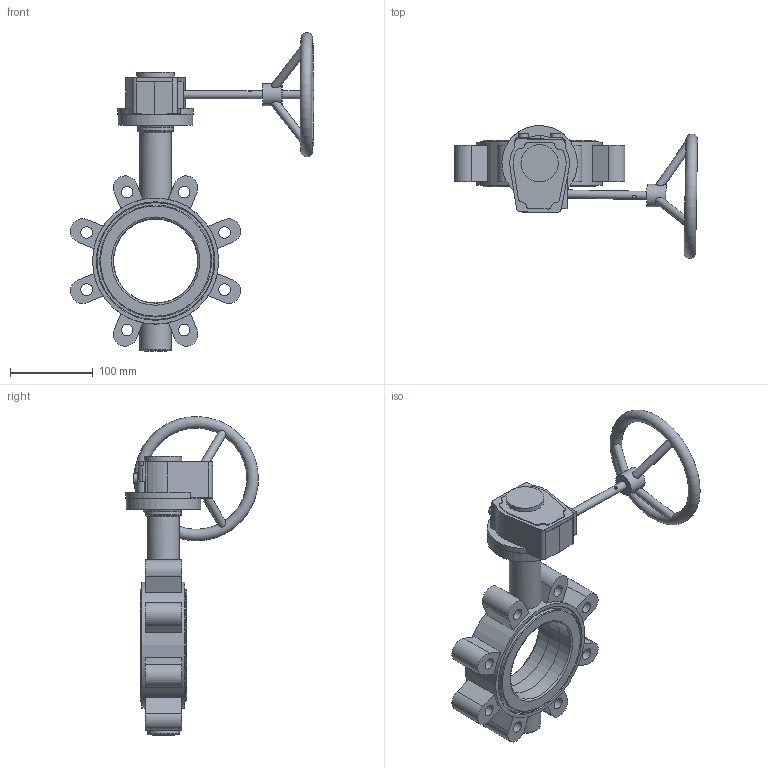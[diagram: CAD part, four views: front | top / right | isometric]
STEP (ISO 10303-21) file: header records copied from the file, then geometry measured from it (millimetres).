
FILE_DESCRIPTION (( 'STEP AP203' ), '1' );
FILE_NAME ('2502 LT型中线衬胶带销 手动头蝶阀 DN100 PN16 CD0309118.STEP', '2026-03-25T02:30:25', ( '' ), ( '' ), 'SwSTEP 2.0', 'SolidWorks 2018', '' );
FILE_SCHEMA (( 'CONFIG_CONTROL_DESIGN' ));
Length unit declared in the file: millimetre
Products named in the file (5): ｳﾄｽｺ(ﾋｫﾋｮﾏﾟ)-DN100-GALAｳﾄｽｺｵ都ｧ-GALA-D100-04AZC-00; GALA-D100-01LCN-00; M22X1.5内六角螺塞; G12L忒雄芛 潠趙; 2502 LT型中线衬胶带销 手动头蝶阀 DN100 PN16 CD0309118
Assembly tree (4 placements, depth 2):
  2502 LT型中线衬胶带销 手动头蝶阀 DN100 PN16 CD0309118
    M22X1.5内六角螺塞
    GALA-D100-01LCN-00
    ｳﾄｽｺ(ﾋｫﾋｮﾏﾟ)-DN100-GALAｳﾄｽｺｵ都ｧ-GALA-D100-04AZC-00
    G12L忒雄芛 潠趙
Bounding box: 293.21 x 160.16 x 384.61 mm (x, y, z)
Volume: 1392918.9 mm3; surface area: 265370 mm2
Topology: 5 solids, 10 shells, 263 faces, 655 edges, 431 vertices
Faces by surface type: cylinder 120, plane 115, cone 10, torus 10, bspline 6, sphere 2
Full cylindrical faces by diameter (mm): 4 x1, 10 x9, 12 x2, 14 x8, 22 x1, 27 x2, 31.6 x1, 34 x1, 38 x2, 43 x1, 45 x1, 90 x1, 91 x1, 101.303 x1, 113 x2, 135 x2, 141 x2, 152 x1
Entity records: 9289 total; most frequent: CARTESIAN_POINT 2883, DIRECTION 1192, ORIENTED_EDGE 1170, EDGE_CURVE 585, AXIS2_PLACEMENT_3D 468, VERTEX_POINT 419, EDGE_LOOP 376, FACE_OUTER_BOUND 310
